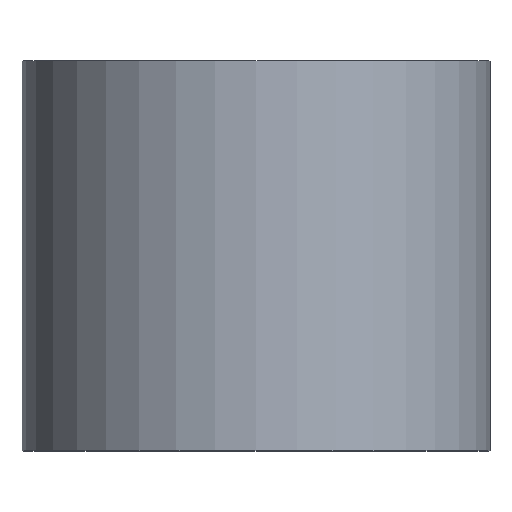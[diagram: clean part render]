
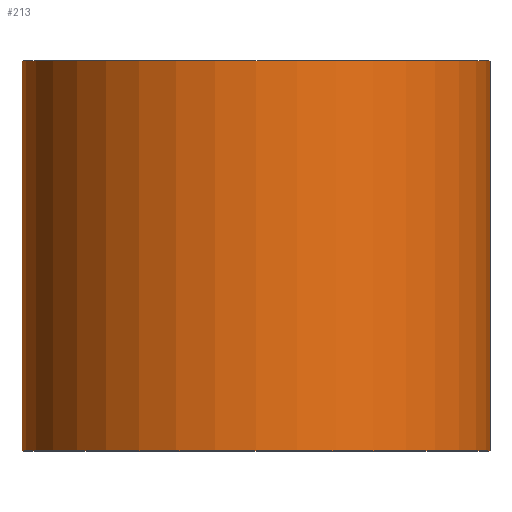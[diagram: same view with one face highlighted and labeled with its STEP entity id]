
A CAD part, top view. The second image highlights one B-rep face of the part: STEP entity #213.
In plain terms, the highlighted cylindrical face has radius 6 mm (diameter 12 mm), a partial arc.
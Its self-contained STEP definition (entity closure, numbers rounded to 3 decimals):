
#18 = AXIS2_PLACEMENT_3D ( 'NONE', #26, #263, #284 ) ;
#20 = CARTESIAN_POINT ( 'NONE',  ( -6., 0., 0. ) ) ;
#21 = DIRECTION ( 'NONE',  ( 0., 1., 0. ) ) ;
#25 = CIRCLE ( 'NONE', #138, 6. ) ;
#26 = CARTESIAN_POINT ( 'NONE',  ( 0., 0., 0. ) ) ;
#29 = VERTEX_POINT ( 'NONE', #66 ) ;
#43 = VERTEX_POINT ( 'NONE', #292 ) ;
#46 = ORIENTED_EDGE ( 'NONE', *, *, #92, .T. ) ;
#66 = CARTESIAN_POINT ( 'NONE',  ( 6., 0., 0. ) ) ;
#68 = DIRECTION ( 'NONE',  ( -1., 0., 0. ) ) ;
#74 = DIRECTION ( 'NONE',  ( -1., 0., 0. ) ) ;
#78 = ORIENTED_EDGE ( 'NONE', *, *, #185, .F. ) ;
#84 = VECTOR ( 'NONE', #235, 1000. ) ;
#87 = AXIS2_PLACEMENT_3D ( 'NONE', #249, #21, #74 ) ;
#88 = CARTESIAN_POINT ( 'NONE',  ( -6., 0., 0. ) ) ;
#92 = EDGE_CURVE ( 'NONE', #29, #145, #173, .T. ) ;
#105 = LINE ( 'NONE', #88, #181 ) ;
#114 = EDGE_LOOP ( 'NONE', ( #160, #46, #234, #78 ) ) ;
#122 = FACE_OUTER_BOUND ( 'NONE', #114, .T. ) ;
#138 = AXIS2_PLACEMENT_3D ( 'NONE', #295, #247, #68 ) ;
#145 = VERTEX_POINT ( 'NONE', #286 ) ;
#160 = ORIENTED_EDGE ( 'NONE', *, *, #221, .T. ) ;
#173 = LINE ( 'NONE', #211, #84 ) ;
#181 = VECTOR ( 'NONE', #222, 1000. ) ;
#185 = EDGE_CURVE ( 'NONE', #195, #43, #105, .T. ) ;
#195 = VERTEX_POINT ( 'NONE', #20 ) ;
#211 = CARTESIAN_POINT ( 'NONE',  ( 6., 0., 0. ) ) ;
#213 = ADVANCED_FACE ( 'NONE', ( #122 ), #256, .T. ) ;
#221 = EDGE_CURVE ( 'NONE', #195, #29, #265, .T. ) ;
#222 = DIRECTION ( 'NONE',  ( 0., 1., 0. ) ) ;
#234 = ORIENTED_EDGE ( 'NONE', *, *, #236, .F. ) ;
#235 = DIRECTION ( 'NONE',  ( 0., 1., 0. ) ) ;
#236 = EDGE_CURVE ( 'NONE', #43, #145, #25, .T. ) ;
#247 = DIRECTION ( 'NONE',  ( 0., 1., 0. ) ) ;
#249 = CARTESIAN_POINT ( 'NONE',  ( 0., 0., 0. ) ) ;
#256 = CYLINDRICAL_SURFACE ( 'NONE', #18, 6. ) ;
#263 = DIRECTION ( 'NONE',  ( 0., 1., 0. ) ) ;
#265 = CIRCLE ( 'NONE', #87, 6. ) ;
#284 = DIRECTION ( 'NONE',  ( -1., 0., 0. ) ) ;
#286 = CARTESIAN_POINT ( 'NONE',  ( 6., 10., 0. ) ) ;
#292 = CARTESIAN_POINT ( 'NONE',  ( -6., 10., 0. ) ) ;
#295 = CARTESIAN_POINT ( 'NONE',  ( 0., 10., 0. ) ) ;
